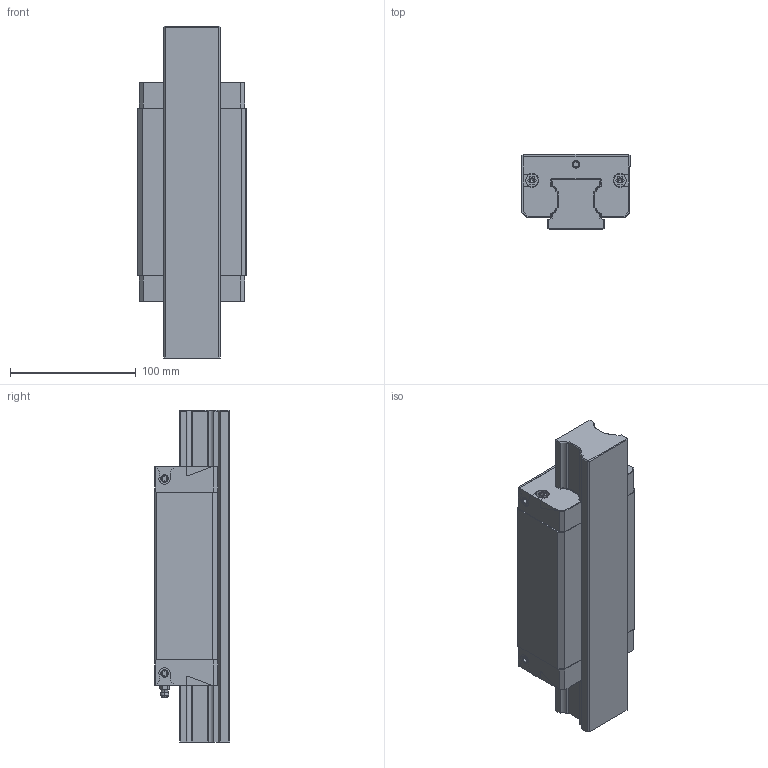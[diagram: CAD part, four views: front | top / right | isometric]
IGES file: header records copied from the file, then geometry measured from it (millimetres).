
Start section: 3D InterOp IGES (v. 2019 1.0.2), Spatial Corp. Copyright (c) 1999-2017.
Global section: file name: R1623_size45.igs; native system: Spatial Corp.; preprocessor: 3D InterOp GENERIC/IGES 3.0; author: Noname; organization: Noname; date: 20220629.124918; units: millimetre
Bounding box: 86 x 60 x 264.1 mm (x, y, z)
Surface area: 149834.7 mm2 (no closed solid volume)
Topology: 0 solids, 0 shells, 531 faces, 2816 edges, 2786 vertices
Faces by surface type: extrusion 292, revolution 239
